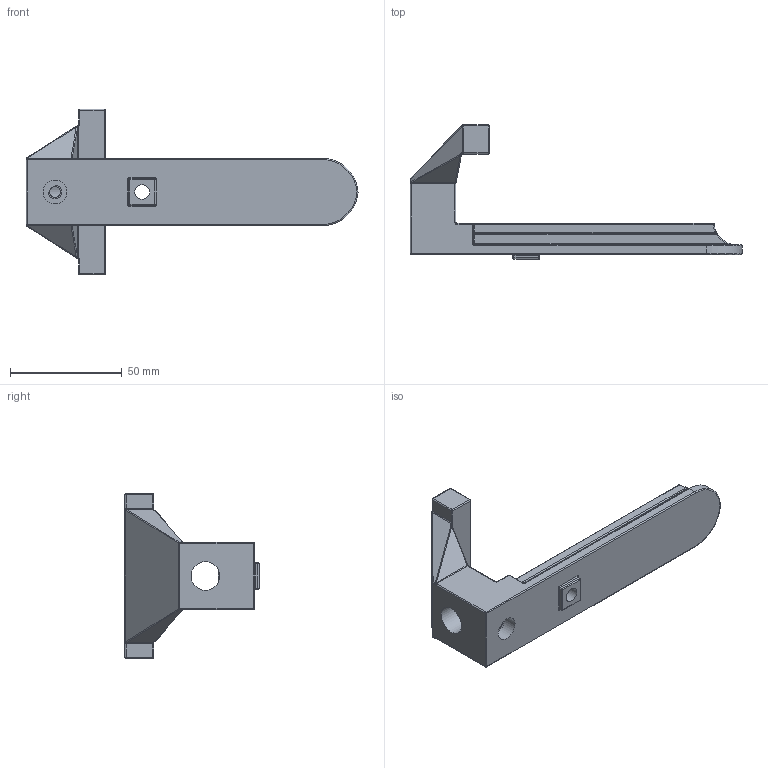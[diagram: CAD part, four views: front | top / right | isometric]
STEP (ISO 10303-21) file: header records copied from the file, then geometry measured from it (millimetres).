
FILE_DESCRIPTION(/* description */ (''),/* implementation_level */ '2;1');
FILE_NAME(/* name */ 'H:\5-Olympiades\47e\Sujet Régional\Etau\A donner aux candidats\2-Après-Midi\01-Mors fixe.stp',/* time_stamp */ '2022-03-30T09:14:15+02:00',/* author */ ('Philippe'),/* organization */ (''),/* preprocessor_version */ 'ST-DEVELOPER v18',/* originating_system */ 'Autodesk Inventor 2020',/* authorisation */ '');
FILE_SCHEMA (('CONFIG_CONTROL_DESIGN'));
Length unit declared in the file: millimetre
Products named in the file (1): 01-Mors fixe
Bounding box: 148.5 x 60 x 74 mm (x, y, z)
Volume: 78667.1 mm3; surface area: 23188.4 mm2
Topology: 1 solids, 2 shells, 207 faces, 453 edges, 250 vertices
Faces by surface type: cylinder 90, plane 37, sphere 32, torus 28, bspline 20
Full cylindrical faces by diameter (mm): 4.917 x1, 6.6 x1, 10.6 x1, 11 x1, 12.8 x1
Entity records: 6383 total; most frequent: CARTESIAN_POINT 1581, DIRECTION 1037, ORIENTED_EDGE 898, EDGE_CURVE 451, AXIS2_PLACEMENT_3D 432, VERTEX_POINT 250, CIRCLE 228, EDGE_LOOP 216
